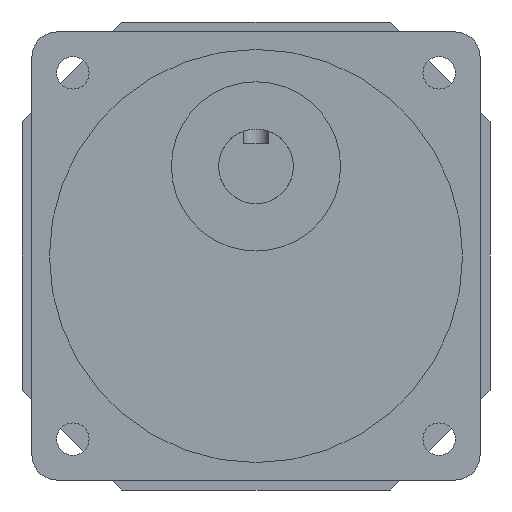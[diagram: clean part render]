
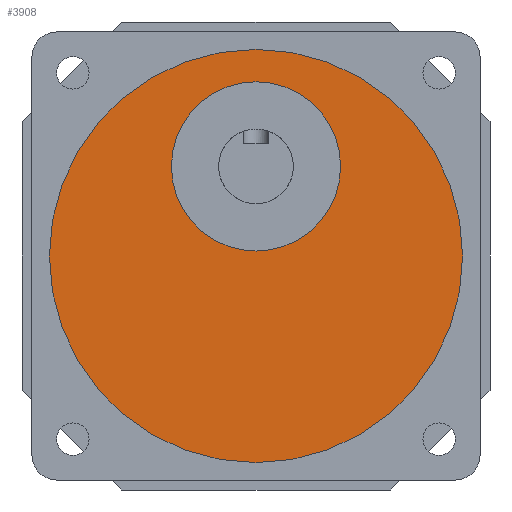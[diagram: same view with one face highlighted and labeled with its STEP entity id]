
A CAD part, front view. The second image highlights one B-rep face of the part: STEP entity #3908.
In plain terms, the highlighted planar face has unit normal (0, -1, 0).
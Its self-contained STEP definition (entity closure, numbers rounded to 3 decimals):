
#157 = AXIS2_PLACEMENT_3D ( 'NONE', #2467, #252, #2825 ) ;
#238 = EDGE_CURVE ( 'NONE', #3615, #3215, #4160, .T. ) ;
#252 = DIRECTION ( 'NONE',  ( 0., -1., 0. ) ) ;
#561 = DIRECTION ( 'NONE',  ( 0., 0., -1. ) ) ;
#713 = DIRECTION ( 'NONE',  ( 0., 0., -1. ) ) ;
#774 = DIRECTION ( 'NONE',  ( 0., 0., -1. ) ) ;
#837 = CIRCLE ( 'NONE', #4270, 41.5 ) ;
#867 = AXIS2_PLACEMENT_3D ( 'NONE', #1399, #1798, #713 ) ;
#1094 = EDGE_LOOP ( 'NONE', ( #2643, #1976 ) ) ;
#1184 = EDGE_LOOP ( 'NONE', ( #3607, #3314 ) ) ;
#1252 = CARTESIAN_POINT ( 'NONE',  ( 45., -63.5, 45. ) ) ;
#1270 = DIRECTION ( 'NONE',  ( 0., -1., 0. ) ) ;
#1271 = CIRCLE ( 'NONE', #4106, 41.5 ) ;
#1399 = CARTESIAN_POINT ( 'NONE',  ( 45., -63.5, 63. ) ) ;
#1489 = DIRECTION ( 'NONE',  ( 0., -1., 0. ) ) ;
#1500 = EDGE_CURVE ( 'NONE', #3234, #1543, #1271, .T. ) ;
#1508 = FACE_BOUND ( 'NONE', #1094, .T. ) ;
#1543 = VERTEX_POINT ( 'NONE', #2646 ) ;
#1646 = CARTESIAN_POINT ( 'NONE',  ( 45., -63.5, 86.5 ) ) ;
#1798 = DIRECTION ( 'NONE',  ( 0., -1., 0. ) ) ;
#1976 = ORIENTED_EDGE ( 'NONE', *, *, #238, .F. ) ;
#2034 = AXIS2_PLACEMENT_3D ( 'NONE', #3770, #3347, #3706 ) ;
#2050 = CARTESIAN_POINT ( 'NONE',  ( 45., -63.5, 80. ) ) ;
#2467 = CARTESIAN_POINT ( 'NONE',  ( 45., -63.5, 45. ) ) ;
#2643 = ORIENTED_EDGE ( 'NONE', *, *, #4335, .F. ) ;
#2646 = CARTESIAN_POINT ( 'NONE',  ( 45., -63.5, 3.5 ) ) ;
#2825 = DIRECTION ( 'NONE',  ( 0., 0., -1. ) ) ;
#3215 = VERTEX_POINT ( 'NONE', #2050 ) ;
#3234 = VERTEX_POINT ( 'NONE', #1646 ) ;
#3314 = ORIENTED_EDGE ( 'NONE', *, *, #1500, .T. ) ;
#3330 = CARTESIAN_POINT ( 'NONE',  ( 45., -63.5, 45. ) ) ;
#3347 = DIRECTION ( 'NONE',  ( 0., -1., 0. ) ) ;
#3441 = CARTESIAN_POINT ( 'NONE',  ( 45., -63.5, 46. ) ) ;
#3607 = ORIENTED_EDGE ( 'NONE', *, *, #4685, .T. ) ;
#3615 = VERTEX_POINT ( 'NONE', #3441 ) ;
#3706 = DIRECTION ( 'NONE',  ( 0., 0., -1. ) ) ;
#3770 = CARTESIAN_POINT ( 'NONE',  ( 45., -63.5, 63. ) ) ;
#3880 = CIRCLE ( 'NONE', #867, 17. ) ;
#3908 = ADVANCED_FACE ( 'NONE', ( #1508, #4301 ), #4651, .T. ) ;
#4106 = AXIS2_PLACEMENT_3D ( 'NONE', #3330, #1489, #774 ) ;
#4160 = CIRCLE ( 'NONE', #2034, 17. ) ;
#4270 = AXIS2_PLACEMENT_3D ( 'NONE', #1252, #1270, #561 ) ;
#4301 = FACE_OUTER_BOUND ( 'NONE', #1184, .T. ) ;
#4335 = EDGE_CURVE ( 'NONE', #3215, #3615, #3880, .T. ) ;
#4651 = PLANE ( 'NONE',  #157 ) ;
#4685 = EDGE_CURVE ( 'NONE', #1543, #3234, #837, .T. ) ;
